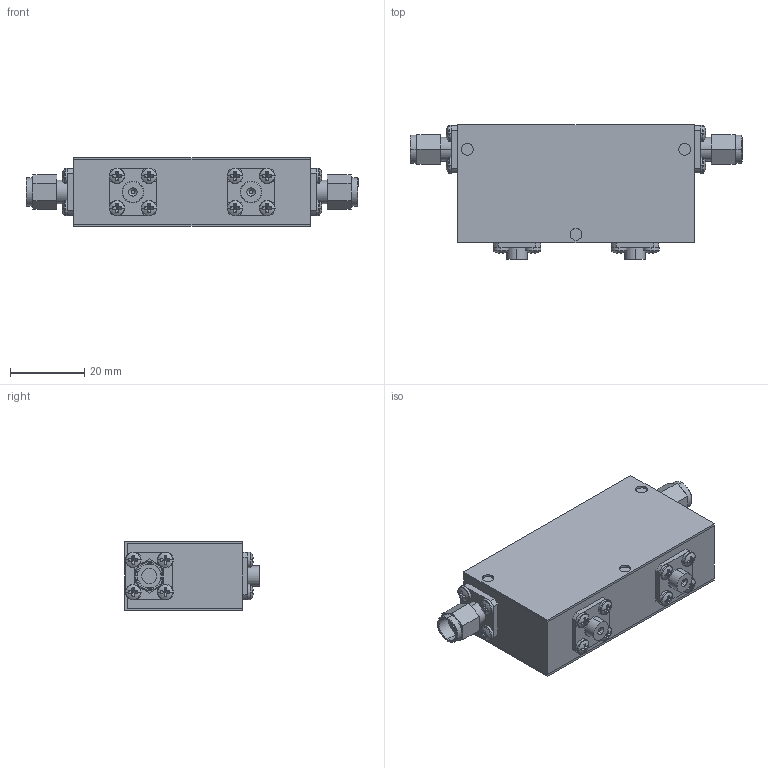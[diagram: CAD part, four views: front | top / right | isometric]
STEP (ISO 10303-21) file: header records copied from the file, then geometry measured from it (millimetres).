
FILE_DESCRIPTION (( 'STEP AP214' ), '1' );
FILE_NAME ('Package 13 Iso MM.step', '2021-12-01T20:57:45', ( '' ), ( '' ), 'SwSTEP 2.0', 'SolidWorks 2016', '' );
FILE_SCHEMA (( 'AUTOMOTIVE_DESIGN' ));
Length unit declared in the file: inch
Products named in the file (6): pan cross head_ai_CR-PHMS 0.086-56x0.125x0.125-N; Package 13 Iso MM; Delta SMA-Male; 030013-1A; Package Size 13; Package 13
Assembly tree (22 placements, depth 2):
  Package 13 Iso MM
    Package 13
    pan cross head_ai_CR-PHMS 0.086-56x0.125x0.125-N  x16
    Delta SMA-Male  x2
    030013-1A  x2
    Package Size 13
Bounding box: 89.26 x 36.2 x 18.54 mm (x, y, z)
Volume: 39295.3 mm3; surface area: 21395.9 mm2
Topology: 22 solids, 22 shells, 554 faces, 1260 edges, 776 vertices
Faces by surface type: plane 314, cylinder 152, torus 48, sphere 32, cone 8
Entity records: 4324 total; most frequent: DIRECTION 784, CARTESIAN_POINT 673, ORIENTED_EDGE 632, EDGE_CURVE 316, AXIS2_PLACEMENT_3D 313, VERTEX_POINT 202, EDGE_LOOP 168, LINE 158
